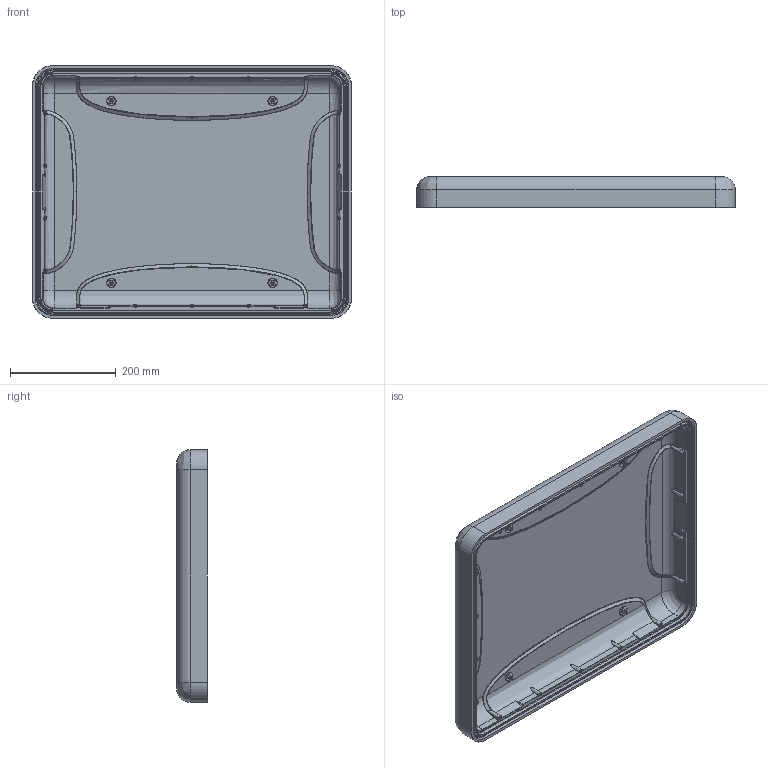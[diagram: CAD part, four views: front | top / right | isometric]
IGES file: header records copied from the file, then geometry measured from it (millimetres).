
Start section: SolidWorks IGES file using analytic representation for surfaces
Global section: file name: V:\NANUK\NANUK Marketing\NANUK Technical Drawings\3D Files\IGES\960\960_top_INNER SURFACES.IGS; native system: SolidWorks 2014; preprocessor: SolidWorks 2014; author: plouimet; date: 140520.152853; units: inch
Bounding box: 602.99 x 57.84 x 477.52 mm (x, y, z)
Surface area: 792545.7 mm2 (no closed solid volume)
Topology: 0 solids, 0 shells, 589 faces, 8638 edges, 8632 vertices
Faces by surface type: bspline 364, revolution 225
